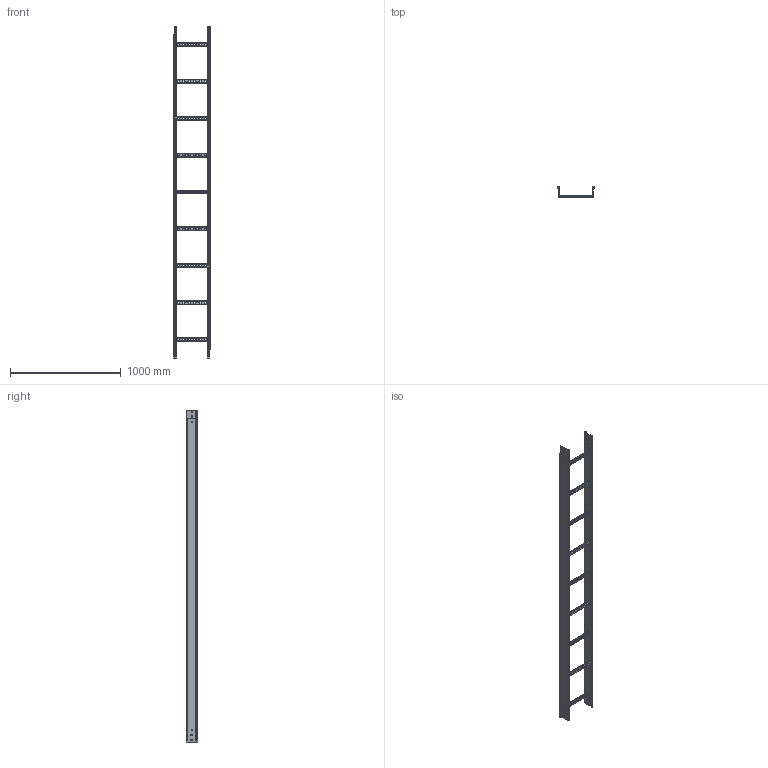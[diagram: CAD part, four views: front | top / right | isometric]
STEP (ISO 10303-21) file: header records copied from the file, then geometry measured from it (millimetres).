
FILE_DESCRIPTION (( 'STEP AP203' ), '1' );
FILE_NAME ('FE trav35 H60-75-100 p333 300x100.step', '2023-07-28T15:28:39', ( '' ), ( '' ), 'SwSTEP 2.0', 'SolidWorks 2022', '' );
FILE_SCHEMA (( 'CONFIG_CONTROL_DESIGN' ));
Length unit declared in the file: millimetre
Products named in the file (3): FE trav35 H60-75-100 p333 300x100; FE_RA35_300; FE_MONTANTE_100x2
Assembly tree (11 placements, depth 2):
  FE trav35 H60-75-100 p333 300x100
    FE_MONTANTE_100x2  x2
    FE_RA35_300  x9
Bounding box: 334 x 102 x 3000 mm (x, y, z)
Volume: 2006363 mm3; surface area: 2141939.2 mm2
Topology: 11 solids, 11 shells, 778 faces, 1978 edges, 1222 vertices
Faces by surface type: plane 476, cylinder 298, bspline 4
Entity records: 5787 total; most frequent: CARTESIAN_POINT 1285, DIRECTION 855, ORIENTED_EDGE 816, EDGE_CURVE 408, AXIS2_PLACEMENT_3D 302, VERTEX_POINT 261, LINE 251, VECTOR 251
